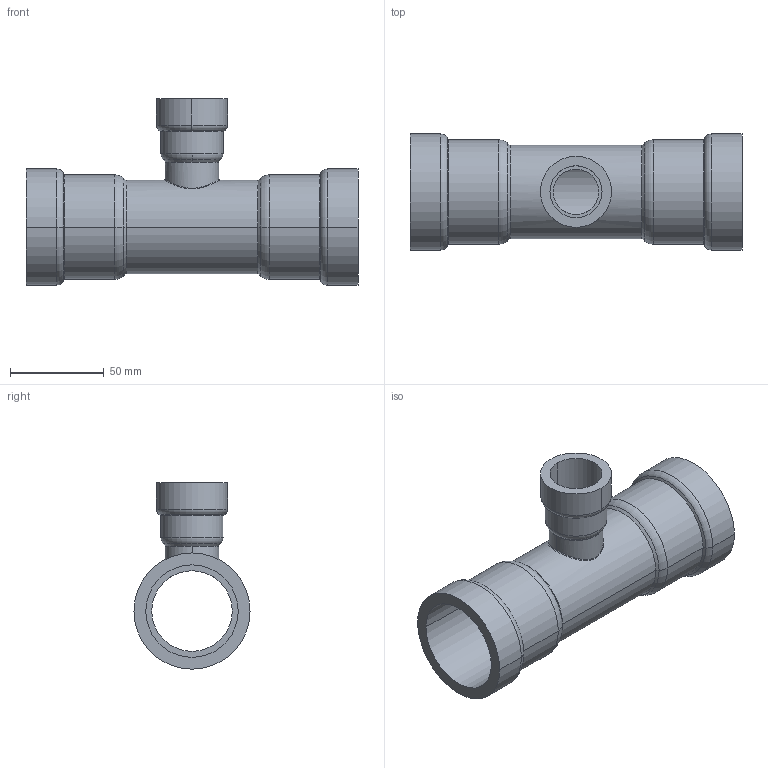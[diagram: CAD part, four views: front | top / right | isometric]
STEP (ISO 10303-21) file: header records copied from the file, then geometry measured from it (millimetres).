
FILE_DESCRIPTION(('Creo Elements/Direct Modeling STEP Export'),'2;1');
FILE_NAME('C9415_1-1-2_3-4_1-1-2.stp','2020-07-15T 9:45:23',(''),(''),'PTC Creo Elements/Direct Modeling STEP processor for AP214 (Solid Model)','PTC Creo Elements/Direct Modeling 19.0C 15-Aug-2015 (C) Parametric Technology GmbH','');
FILE_SCHEMA(('AUTOMOTIVE_DESIGN { 1 0 10303 214 1 1 1 1 }'));
Length unit declared in the file: millimetre
Products named in the file (1): 9415_1-1-2_3-4_1-1-2
Bounding box: 177.18 x 62 x 99.44 mm (x, y, z)
Volume: 129310.6 mm3; surface area: 68785.1 mm2
Topology: 1 solids, 1 shells, 60 faces, 134 edges, 80 vertices
Faces by surface type: cylinder 26, torus 12, cone 12, plane 6, bspline 4
Entity records: 5334 total; most frequent: CARTESIAN_POINT 4117, ORIENTED_EDGE 268, DIRECTION 236, EDGE_CURVE 134, AXIS2_PLACEMENT_3D 99, VERTEX_POINT 80, EDGE_LOOP 68, FACE_OUTER_BOUND 60
